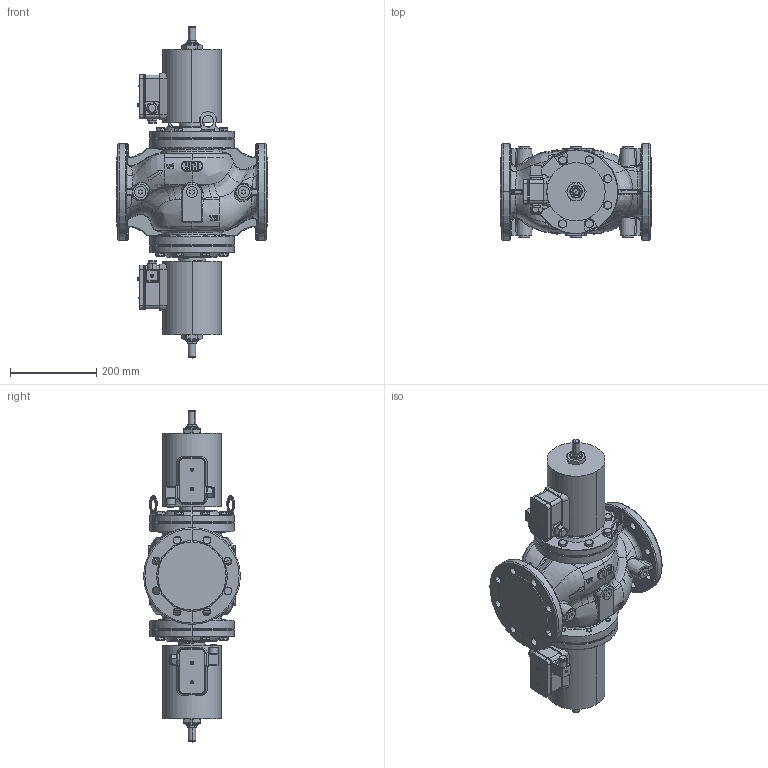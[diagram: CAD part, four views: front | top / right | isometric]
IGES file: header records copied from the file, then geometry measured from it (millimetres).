
Global section: file name: No Iges File Name specified; native system: AutoDesk Inventor R12.0; preprocessor: AutoDesk Inventor Iges Exporter R12.0; date: 20100908.114710; units: millimetre
Bounding box: 350 x 224 x 770.01 mm (x, y, z)
Volume: 16783539.1 mm3; surface area: 1286557.4 mm2
Topology: 1 solids, 1 shells, 3335 faces, 8752 edges, 5591 vertices
Faces by surface type: plane 1397, bspline 876, cone 317, cylinder 314, revolution 252, torus 163, sphere 16
